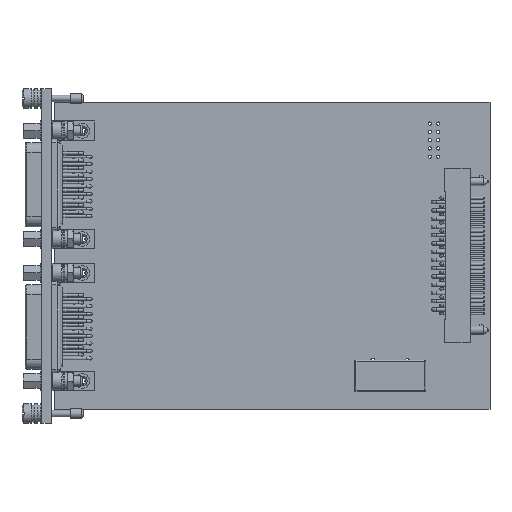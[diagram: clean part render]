
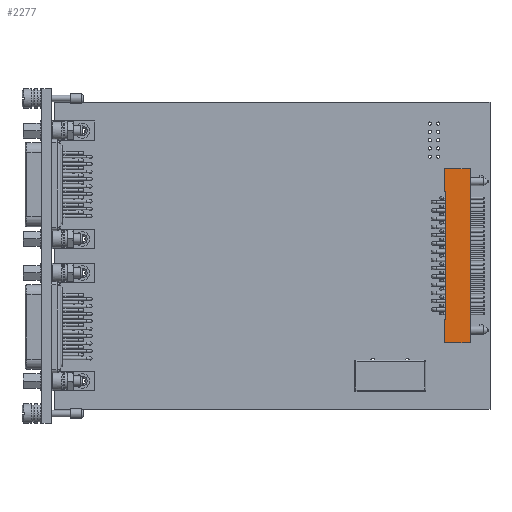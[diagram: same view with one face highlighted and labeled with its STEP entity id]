
A CAD part, top view. The second image highlights one B-rep face of the part: STEP entity #2277.
In plain terms, the highlighted planar face has unit normal (0, 0, 1).
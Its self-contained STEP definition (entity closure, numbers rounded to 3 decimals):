
#2277=ADVANCED_FACE('',(#36990),#36992,.F.);
#36990=FACE_BOUND('',#36991,.T.);
#36991=EDGE_LOOP('',(#66329,#66330,#66331,#66332,#66333,#66334,#66335,#66336));
#36992=PLANE('',#36993);
#36993=AXIS2_PLACEMENT_3D('',#36994,#36995,#36996);
#36994=CARTESIAN_POINT('',(107.02,12.5,39.363));
#36995=DIRECTION('',(0.,0.,-1.));
#36996=DIRECTION('',(-1.,0.,0.));
#66329=ORIENTED_EDGE('',*,*,#84228,.T.);
#66330=ORIENTED_EDGE('',*,*,#84271,.T.);
#66331=ORIENTED_EDGE('',*,*,#84269,.T.);
#66332=ORIENTED_EDGE('',*,*,#84267,.T.);
#66333=ORIENTED_EDGE('',*,*,#84265,.T.);
#66334=ORIENTED_EDGE('',*,*,#84234,.T.);
#66335=ORIENTED_EDGE('',*,*,#84232,.T.);
#66336=ORIENTED_EDGE('',*,*,#84230,.T.);
#84228=EDGE_CURVE('',#93766,#93764,#93767,.T.);
#84230=EDGE_CURVE('',#93769,#93766,#93770,.T.);
#84232=EDGE_CURVE('',#93772,#93769,#93773,.T.);
#84234=EDGE_CURVE('',#93775,#93772,#93776,.T.);
#84265=EDGE_CURVE('',#93836,#93775,#93837,.T.);
#84267=EDGE_CURVE('',#93839,#93836,#93840,.T.);
#84269=EDGE_CURVE('',#93842,#93839,#93843,.T.);
#84271=EDGE_CURVE('',#93764,#93842,#93845,.T.);
#93764=VERTEX_POINT('',#110645);
#93766=VERTEX_POINT('',#110649);
#93767=LINE('',#110650,#110651);
#93769=VERTEX_POINT('',#110656);
#93770=LINE('',#110657,#110658);
#93772=VERTEX_POINT('',#110663);
#93773=LINE('',#110664,#110665);
#93775=VERTEX_POINT('',#110670);
#93776=LINE('',#110671,#110672);
#93836=VERTEX_POINT('',#110822);
#93837=LINE('',#110823,#110824);
#93839=VERTEX_POINT('',#110829);
#93840=LINE('',#110830,#110831);
#93842=VERTEX_POINT('',#110836);
#93843=LINE('',#110837,#110838);
#93845=LINE('',#110843,#110844);
#110645=CARTESIAN_POINT('',(114.92,12.5,39.363));
#110649=CARTESIAN_POINT('',(107.02,12.5,39.363));
#110650=CARTESIAN_POINT('',(107.02,12.5,39.363));
#110651=VECTOR('',#110652,1.);
#110652=DIRECTION('',(1.,0.,0.));
#110656=CARTESIAN_POINT('',(107.02,19.5,39.363));
#110657=CARTESIAN_POINT('',(107.02,19.5,39.363));
#110658=VECTOR('',#110659,1.);
#110659=DIRECTION('',(0.,-1.,0.));
#110663=CARTESIAN_POINT('',(107.32,19.5,39.363));
#110664=CARTESIAN_POINT('',(107.32,19.5,39.363));
#110665=VECTOR('',#110666,1.);
#110666=DIRECTION('',(-1.,0.,0.));
#110670=CARTESIAN_POINT('',(107.32,59.,39.363));
#110671=CARTESIAN_POINT('',(107.32,59.,39.363));
#110672=VECTOR('',#110673,1.);
#110673=DIRECTION('',(0.,-1.,0.));
#110822=CARTESIAN_POINT('',(107.02,59.,39.363));
#110823=CARTESIAN_POINT('',(107.02,59.,39.363));
#110824=VECTOR('',#110825,1.);
#110825=DIRECTION('',(1.,0.,0.));
#110829=CARTESIAN_POINT('',(107.02,66.,39.363));
#110830=CARTESIAN_POINT('',(107.02,66.,39.363));
#110831=VECTOR('',#110832,1.);
#110832=DIRECTION('',(0.,-1.,0.));
#110836=CARTESIAN_POINT('',(114.92,66.,39.363));
#110837=CARTESIAN_POINT('',(114.92,66.,39.363));
#110838=VECTOR('',#110839,1.);
#110839=DIRECTION('',(-1.,0.,0.));
#110843=CARTESIAN_POINT('',(114.92,12.5,39.363));
#110844=VECTOR('',#110845,1.);
#110845=DIRECTION('',(0.,1.,0.));
